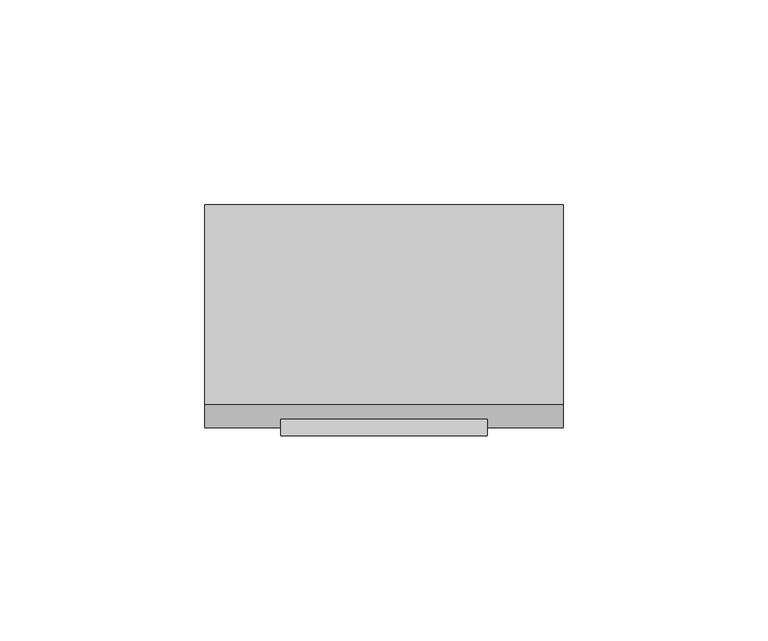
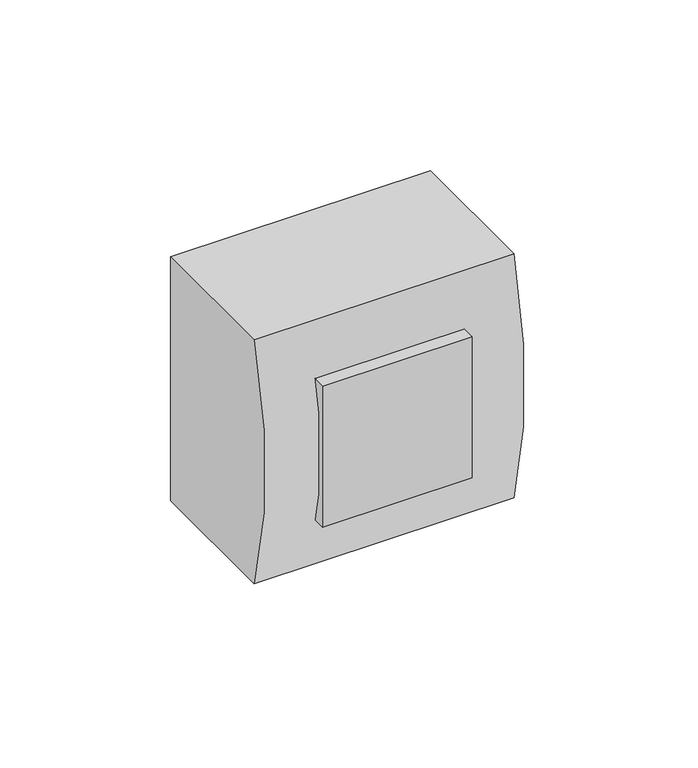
"""IFC4 building model written with IfcOpenShell, lengths in millimetres: proxy geometry, КНС_КоробкаВСбореСВыключателями_ILF_DKC : Белая."""

import ifcopenshell
import ifcopenshell.guid

model = None  # the IFC model being written
_history = None  # IfcOwnerHistory: only IFC2X3 demands one
_inside = {}  # id of a spatial element -> (the spatial element, [elements in it])
_under = {}  # id of a project, library or spatial element -> (it, [spatial elements below it])
_declared = {}  # id of a project -> (the project, [libraries it declares])
_typed = {}  # id of a type object -> (the type object, [elements of that type])
_made_of = {}  # id of a material, layer set ... -> (it, [elements and type objects made of it])


def new_model(schema):
    """Start an empty IFC model of exactly this schema.

    Asked for "IFC4X3", IfcOpenShell would pick the latest addendum, in which some entities
    have other attributes; the version numbers below select the first issue.
    IFC2X3 requires an IfcOwnerHistory on every rooted entity: one is made here for all.
    """
    global model, _history
    if schema == "IFC4X3":
        model = ifcopenshell.file(schema_version=(4, 3, 0, 0))
    else:
        model = ifcopenshell.file(schema=schema)
    _inside.clear()
    _under.clear()
    _declared.clear()
    _typed.clear()
    _made_of.clear()
    _history = None
    if model.schema == "IFC2X3":
        org = make("IfcOrganization", Name="unknown")
        user = make(
            "IfcPersonAndOrganization",
            ThePerson=make("IfcPerson", FamilyName="unknown"),
            TheOrganization=org,
        )
        app = make(
            "IfcApplication",
            ApplicationDeveloper=org,
            Version="unknown",
            ApplicationFullName="unknown",
            ApplicationIdentifier="unknown",
        )
        _history = make(
            "IfcOwnerHistory",
            OwningUser=user,
            OwningApplication=app,
            ChangeAction="ADDED",
            CreationDate=0,
        )
    return model


def make(cls, **values):
    """One entity of the class cls with the attributes given. An attribute that is None is left unset."""
    return model.create_entity(
        cls, **{name: value for name, value in values.items() if value is not None}
    )


def rooted(cls, **values):
    """An entity with a GlobalId (a new one), such as an element, a storey or a relation."""
    return make(cls, GlobalId=ifcopenshell.guid.new(), OwnerHistory=_history, **values)


def si_unit(unit_type, name, prefix=None):
    """IfcSIUnit, for example si_unit("LENGTHUNIT", "METRE", prefix="MILLI")."""
    return make("IfcSIUnit", UnitType=unit_type, Prefix=prefix, Name=name)


def assignment(units):
    """IfcUnitAssignment: the units of a project."""
    return None if units is None else make("IfcUnitAssignment", Units=units)


def point(xyz):
    """IfcCartesianPoint."""
    return None if xyz is None else make("IfcCartesianPoint", Coordinates=xyz)


def direction(xyz):
    """IfcDirection."""
    return None if xyz is None else make("IfcDirection", DirectionRatios=xyz)


def frame(location, z_axis=None, x_axis=None):
    """IfcAxis2Placement3D, a coordinate frame: its origin and axes. An axis left out is left unset."""
    return make(
        "IfcAxis2Placement3D",
        Location=point(location),
        Axis=direction(z_axis),
        RefDirection=direction(x_axis),
    )


def frame_2d(location, x_axis=None):
    """IfcAxis2Placement2D, a coordinate frame in the plane: its origin and x axis."""
    return make(
        "IfcAxis2Placement2D", Location=point(location), RefDirection=direction(x_axis)
    )


def origin():
    """The frame at (0, 0, 0) with its axes left unset."""
    return frame((0.0, 0.0, 0.0))


def place(relative_to, where):
    """IfcLocalPlacement: puts the frame where relative to a parent placement (None: the world)."""
    return make(
        "IfcLocalPlacement", PlacementRelTo=relative_to, RelativePlacement=where
    )


def context(
    kind, dimensions, precision=None, world=None, true_north=None, identifier=None
):
    """IfcGeometricRepresentationContext, for example the 3D "Model" context."""
    return make(
        "IfcGeometricRepresentationContext",
        ContextIdentifier=identifier,
        ContextType=kind,
        CoordinateSpaceDimension=dimensions,
        Precision=precision,
        WorldCoordinateSystem=world,
        TrueNorth=true_north,
    )


def project(units=None, contexts=None):
    """IfcProject with its units and contexts."""
    return rooted(
        "IfcProject",
        Name="project",
        RepresentationContexts=contexts,
        UnitsInContext=assignment(units),
    )


def spatial(cls, under=None, at=None, **own):
    """A site, building, storey or space (cls), placed at a placement, below another one or the project."""
    s = rooted(cls, ObjectPlacement=at, **own)
    if under is not None:
        _under.setdefault(under.id(), (under, []))[1].append(s)
    return s


def polyline(points):
    """IfcPolyline through the points."""
    return make("IfcPolyline", Points=[point(p) for p in points])


def circle_curve(where, radius):
    """IfcCircle in the frame where."""
    return make("IfcCircle", Position=where, Radius=radius)


def trimmed(basis, trim1, trim2, sense, master):
    """IfcTrimmedCurve: the piece of a basis curve between two trims."""
    return make(
        "IfcTrimmedCurve",
        BasisCurve=basis,
        Trim1=trim1,
        Trim2=trim2,
        SenseAgreement=sense,
        MasterRepresentation=master,
    )


def segment(curve, same_sense, transition):
    """IfcCompositeCurveSegment."""
    return make(
        "IfcCompositeCurveSegment",
        Transition=transition,
        SameSense=same_sense,
        ParentCurve=curve,
    )


def composite_curve(segments, self_intersect=None):
    """IfcCompositeCurve: segments joined end to end."""
    return make("IfcCompositeCurve", Segments=segments, SelfIntersect=self_intersect)


def outline(outer, holes=None, kind="AREA"):
    """IfcArbitraryClosedProfileDef: a profile drawn as a closed curve; with holes, ...WithVoids."""
    if holes is None:
        return make("IfcArbitraryClosedProfileDef", ProfileType=kind, OuterCurve=outer)
    return make(
        "IfcArbitraryProfileDefWithVoids",
        ProfileType=kind,
        OuterCurve=outer,
        InnerCurves=holes,
    )


def extrude(swept, where, along, depth):
    """IfcExtrudedAreaSolid: the profile swept, set in the frame where, extruded along a direction by depth."""
    return make(
        "IfcExtrudedAreaSolid",
        SweptArea=swept,
        Position=where,
        ExtrudedDirection=direction(along),
        Depth=depth,
    )


def shape(context_of_items, identifier, shape_type, items):
    """IfcShapeRepresentation: the items that make up one representation, for example the "Body"."""
    return make(
        "IfcShapeRepresentation",
        ContextOfItems=context_of_items,
        RepresentationIdentifier=identifier,
        RepresentationType=shape_type,
        Items=items,
    )


def source(mapping_origin, context_of_items, identifier, shape_type, items):
    """IfcRepresentationMap: a shape defined once, which mapped items show again and again."""
    return make(
        "IfcRepresentationMap",
        MappingOrigin=mapping_origin,
        MappedRepresentation=shape(context_of_items, identifier, shape_type, items),
    )


def transform(
    local_origin,
    x_axis=None,
    y_axis=None,
    z_axis=None,
    scale=None,
    scale2=None,
    scale3=None,
    uniform=True,
):
    """IfcCartesianTransformationOperator3D, or its non-uniform kind. x_axis, y_axis, z_axis: its Axis1, 2, 3."""
    if uniform:
        return make(
            "IfcCartesianTransformationOperator3D",
            Axis1=direction(x_axis),
            Axis2=direction(y_axis),
            LocalOrigin=point(local_origin),
            Scale=scale,
            Axis3=direction(z_axis),
        )
    return make(
        "IfcCartesianTransformationOperator3DnonUniform",
        Axis1=direction(x_axis),
        Axis2=direction(y_axis),
        LocalOrigin=point(local_origin),
        Scale=scale,
        Axis3=direction(z_axis),
        Scale2=scale2,
        Scale3=scale3,
    )


def mapped(mapping_source, mapping_target):
    """IfcMappedItem: shows the shape of a source again, moved by a transform."""
    return make(
        "IfcMappedItem", MappingSource=mapping_source, MappingTarget=mapping_target
    )


def made_of(thing, what):
    """Note that an element or type object is made of a material, layer set ...; save() writes the relation."""
    if what is not None:
        _made_of.setdefault(what.id(), (what, []))[1].append(thing)
    return thing


def element(
    cls,
    number,
    at=None,
    inside=None,
    cuts=None,
    type_object=None,
    material=None,
    context=None,
    identifier="Body",
    shape_type=None,
    held_by="IfcProductDefinitionShape",
    body=None,
    shapes=None,
    **own,
):
    """One element of the class cls, such as IfcWall. Its Tag is "e" and its number.

    at: its placement. inside: the storey or other place that contains it. cuts: it is an
    opening in that element (IfcRelVoidsElement). A single representation is given by context,
    identifier, shape_type and body (its items); several are given by shapes. held_by: the class
    of the entity that holds the representations. save() writes the other relations.
    """
    e = rooted(cls, Tag="e%d" % number, ObjectPlacement=at, **own)
    if body is not None:
        shapes = [shape(context, identifier, shape_type, body)]
    if shapes is not None:
        e.Representation = make(held_by, Representations=shapes)
    if inside is not None:
        _inside.setdefault(inside.id(), (inside, []))[1].append(e)
    if cuts is not None:
        rooted(
            "IfcRelVoidsElement", RelatingBuildingElement=cuts, RelatedOpeningElement=e
        )
    if type_object is not None:
        _typed.setdefault(type_object.id(), (type_object, []))[1].append(e)
    return made_of(e, material)


def aggregate(whole, parts):
    """IfcRelAggregates: a whole, such as a stair, and the parts it consists of."""
    return rooted("IfcRelAggregates", RelatingObject=whole, RelatedObjects=parts)


def save(model, path):
    """Write the relations noted so far, then the file.

    IfcRelAggregates (storeys below a building ...), IfcRelContainedInSpatialStructure (elements
    in a storey), IfcRelDefinesByType, IfcRelAssociatesMaterial and IfcRelDeclares: one each for
    every whole, place, type object, material and project.
    """
    for whole, parts in _under.values():
        aggregate(whole, parts)
    for where, things in _inside.values():
        rooted(
            "IfcRelContainedInSpatialStructure",
            RelatedElements=things,
            RelatingStructure=where,
        )
    for kind, things in _typed.values():
        rooted("IfcRelDefinesByType", RelatedObjects=things, RelatingType=kind)
    for what, things in _made_of.values():
        rooted("IfcRelAssociatesMaterial", RelatedObjects=things, RelatingMaterial=what)
    for by, libraries in _declared.values():
        rooted("IfcRelDeclares", RelatingContext=by, RelatedDefinitions=libraries)
    model.write(path)


def electrical_fixtures_5537c3a0(model_context):
    return source(origin(), model_context, "Body", "SweptSolid", [
        extrude(outline(polyline([(25.2, -48.7563703), (25.2, -56.55), (-25.2, -56.55), (-25.2, -48.7563703), (25.2, -48.7563703)])), frame((0.0, 0.0, -25.2), z_axis=(0.0, 0.0, 1.0), x_axis=(1.0, 0.0, 0.0)), (0.0, 0.0, 1.0), 50.4),
        extrude(outline(composite_curve([segment(polyline([(0.0, -43.55), (-48.7563703, -43.55)]), True, "CONTINUOUS"), segment(trimmed(circle_curve(frame_2d((92.8915747, 0.0)), 148.1915747), [point((-48.7563703, -43.55))], [point((-48.7563703, 43.55))], False, "CARTESIAN"), True, "CONTINUOUS"), segment(polyline([(-48.7563703, 43.55), (0.0, 43.55), (0.0, -43.55)]), True, "CONTINUOUS")], self_intersect=False)), frame((-43.85, 0.0, 0.0), z_axis=(1.0, 0.0, 0.0), x_axis=(0.0, 1.0, 0.0)), (0.0, 0.0, 1.0), 87.7),
    ])


if __name__ == "__main__":
    model = new_model("IFC4")
    model_context = context("Model", 3, world=origin())
    ifc_project = project(units=[si_unit("LENGTHUNIT", "METRE", prefix="MILLI")], contexts=[model_context])
    site = spatial("IfcSite", under=ifc_project)
    building = spatial("IfcBuilding", under=site)
    placement = place(None, origin())
    electrical_fixtures_shape = electrical_fixtures_5537c3a0(model_context)
    element("IfcBuildingElementProxy", 1, Name="КНС_КоробкаВСбореСВыключателями_ILF_DKC : Белая", ObjectType="КНС_КоробкаВСбореСВыключателями_ILF_DKC : Белая", at=placement, inside=building, context=model_context, shape_type="MappedRepresentation", body=[
        mapped(electrical_fixtures_shape, transform((0.0, 0.0, 0.0), x_axis=(1.0, 0.0, 0.0), y_axis=(0.0, 1.0, 0.0), z_axis=(0.0, 0.0, 1.0))),
    ])
    save(model, "model.ifc")
